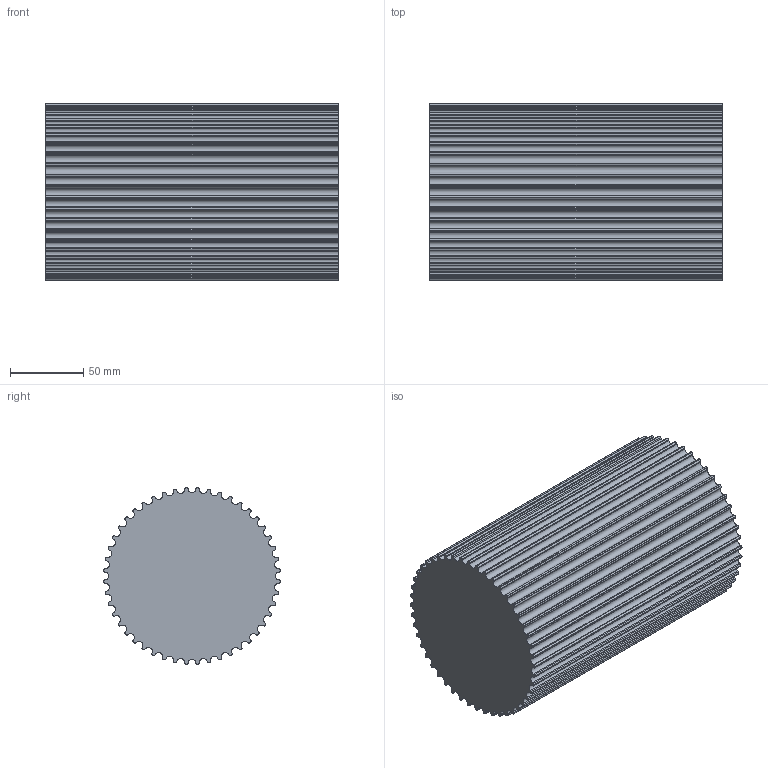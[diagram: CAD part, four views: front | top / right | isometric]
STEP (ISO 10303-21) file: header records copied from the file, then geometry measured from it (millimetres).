
FILE_DESCRIPTION( ( 'STEP AP203' ), '1' );
FILE_NAME( 'C:/Users/Stangenbergd/Desktop/17494801.stp', '2020-08-15T09:48:29', ( 'License CC BY-ND 4.0' ), ( 'CADENAS' ), ' ', 'PARTsolutions', ' ' );
FILE_SCHEMA( ( 'CONFIG_CONTROL_DESIGN' ) );
Length unit declared in the file: millimetre
Products named in the file (1): _17494801
Bounding box: 200 x 120.62 x 120.62 mm (x, y, z)
Volume: 2135579.5 mm3; surface area: 133032.3 mm2
Topology: 1 solids, 1 shells, 290 faces, 864 edges, 576 vertices
Faces by surface type: cylinder 192, plane 98
Entity records: 9956 total; most frequent: DIRECTION 1830, CARTESIAN_POINT 1731, ORIENTED_EDGE 1728, EDGE_CURVE 864, AXIS2_PLACEMENT_3D 675, VERTEX_POINT 576, LINE 480, VECTOR 480
